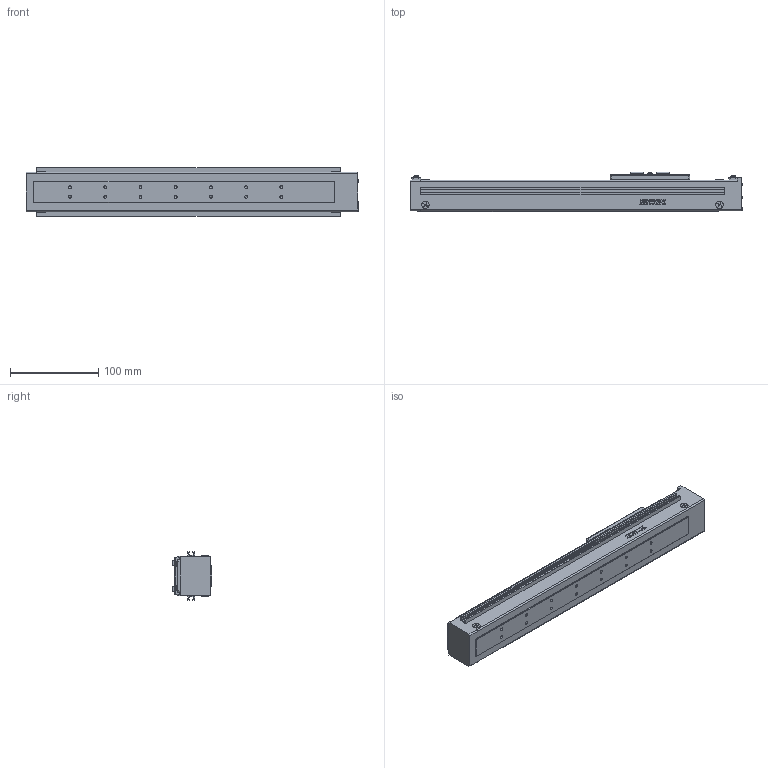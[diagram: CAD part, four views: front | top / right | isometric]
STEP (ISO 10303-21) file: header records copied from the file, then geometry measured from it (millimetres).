
FILE_DESCRIPTION(/* description */ (''),/* implementation_level */ '2;1');
FILE_NAME(/* name */ 'D:\混合母檔20191031\混和母檔\混和母檔\bin\Debug\Download\3D\KE405C-200AF0\KE405C-200AF0.stp',/* time_stamp */ '2019-11-04T13:36:21+08:00',/* author */ ('user'),/* organization */ (''),/* preprocessor_version */ 'ST-DEVELOPER v16.13',/* originating_system */ 'Autodesk Inventor 2018',/* authorisation */ '');
FILE_SCHEMA (('AUTOMOTIVE_DESIGN { 1 0 10303 214 3 1 1 }'));
Length unit declared in the file: millimetre
Products named in the file (3): KE405C-200AF0; KE40-F0-BP; KE40-SL
Assembly tree (2 placements, depth 2):
  KE405C-200AF0
    KE40-F0-BP
    KE40-SL
Bounding box: 377 x 45 x 55 mm (x, y, z)
Volume: 618466.2 mm3; surface area: 97783.8 mm2
Topology: 3 solids, 15 shells, 938 faces, 2530 edges, 1660 vertices
Faces by surface type: plane 471, cone 160, bspline 136, cylinder 99, torus 62, sphere 10
Full cylindrical faces by diameter (mm): 2.459 x6, 2.5 x2, 2.729 x6, 3 x6, 3.242 x14, 3.3 x4, 3.5 x6, 4 x4, 8.4 x8, 20 x1
Entity records: 34427 total; most frequent: CARTESIAN_POINT 12097, ORIENTED_EDGE 4754, DIRECTION 4252, EDGE_CURVE 2377, VERTEX_POINT 1613, AXIS2_PLACEMENT_3D 1443, LINE 1366, VECTOR 1366
